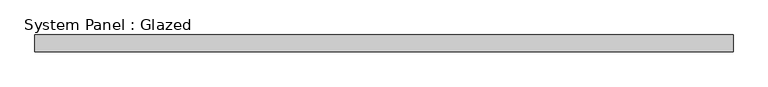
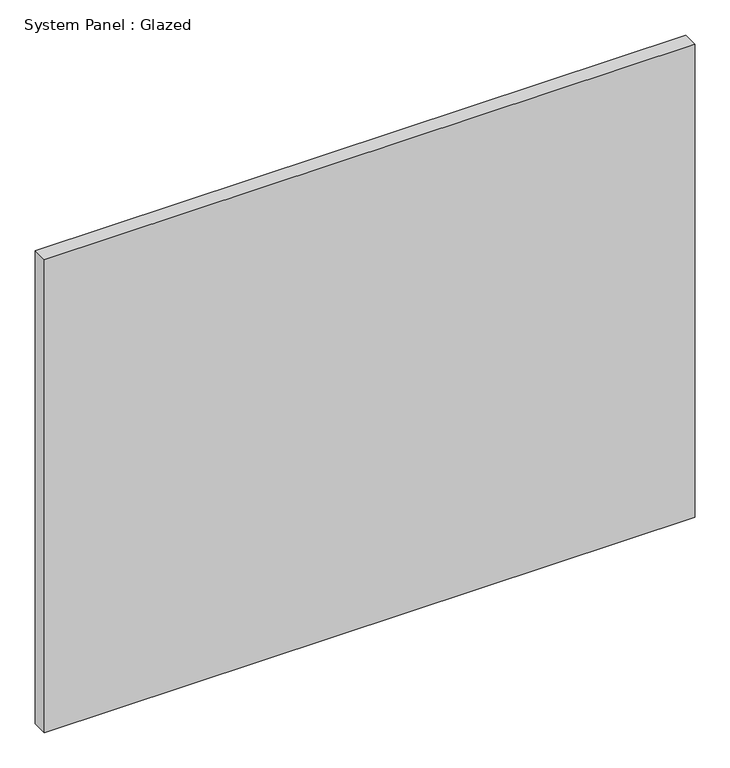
"""IFC4 building model written with IfcOpenShell, lengths in millimetres: plate geometry, System Panel : Glazed."""

from ifc_helpers import new_model, si_unit, origin, origin_with_axes, place, context, project, spatial, polyline, outline, extrude, source, transform, mapped, element, save


def system_panel_glazed_17a02f56(model_context):
    return source(origin(), model_context, "Body", "SweptSolid", [
        extrude(outline(polyline([(533.0412548, 19.05), (-533.0412548, 19.05), (-533.0412548, 44.45), (533.0412548, 44.45), (533.0412548, 19.05)])), origin_with_axes(), (0.0, 0.0, 1.0), 819.15),
    ])


if __name__ == "__main__":
    model = new_model("IFC4")
    model_context = context("Model", 3, world=origin())
    ifc_project = project(units=[si_unit("LENGTHUNIT", "METRE", prefix="MILLI")], contexts=[model_context])
    site = spatial("IfcSite", under=ifc_project)
    building = spatial("IfcBuilding", under=site)
    placement = place(None, origin())
    system_panel_glazed_shape = system_panel_glazed_17a02f56(model_context)
    element("IfcPlate", 1, ObjectType="System Panel : Glazed", at=placement, inside=building, context=model_context, shape_type="MappedRepresentation", body=[
        mapped(system_panel_glazed_shape, transform((0.0, 0.0, 0.0), x_axis=(1.0, 0.0, 0.0), y_axis=(0.0, 1.0, 0.0), z_axis=(0.0, 0.0, 1.0))),
    ])
    save(model, "model.ifc")
